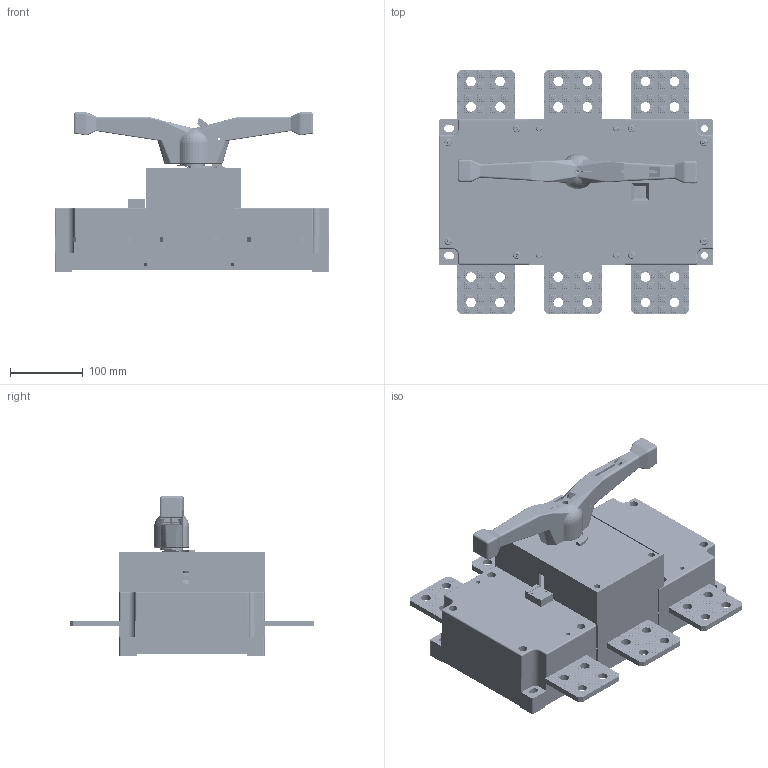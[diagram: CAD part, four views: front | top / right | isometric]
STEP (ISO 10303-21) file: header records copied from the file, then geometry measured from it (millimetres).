
FILE_DESCRIPTION (( 'STEP AP203' ), '1' );
FILE_NAME ('DNH8(HGL)-12503蚾饜尨砩芞.STEP', '2021-01-21T06:07:18', ( '' ), ( '' ), 'SwSTEP 2.0', 'SolidWorks 2019', '' );
FILE_SCHEMA (( 'CONFIG_CONTROL_DESIGN' ));
Length unit declared in the file: millimetre
Products named in the file (33): DNH8(HGL)-1250埴芛嶺裝; 踡嘐蹟譫M6℅6; DNH8(HGL)-1250尖头拉杆（装配用）; DNH8(HGL)-1250源粣; DNH8(HGL)-1250縐銅; DNH8(HGL)-1250粣杶; 圆头螺丝M5×0.8×55(30); DNH8(HGL)-1250揤啣; ﾔｲﾍｷﾂﾝﾋｿM6｡ﾁ1｡ﾁ45; DNH8(HGL)-1250粟銅え; DNH8(HGL)-1250隅弇种; DNH8(HGL)-1250埴芛嶺裝郪璃; DNH8(HGL)-1250揤銅; DNH8(HGL)-1250菁釱; DNH8(HGL)-1250忒梟; DNH8(HGL)-1250雄揖芛; DNH8(HGL)-1250芢輸; DNH8(HGL)-1250噙揖芛﹜; DNH8(HGL)-12503蚾饜尨砩芞; DNH8(HGL)-1250蛌砃啣; DNH8(HGL)-12503賑啣; M6℅20ㄗ湍す菜粟菜ㄘ; DNH8(HGL)-12503賑啣郪璃; DNH8(HGL)-1250賑啣粣; DNH8(HGL)-1250苤裔; DNH8(HGL)-1250忒梟坶え; DNH8(HGL)-1250芢輸蚾饜; 踡嘐蹟譫M5℅5; DNH8(HGL)-1250埴倛菜え; DNH8(HGL)-1250紱釬粣; 圆头螺丝M5×0.8×45(24); DNH8(HGL)-1250奻裔; DNH8(HGL)-1250綻伎硌尨齪
Assembly tree (79 placements, depth 3):
  DNH8(HGL)-12503蚾饜尨砩芞
    DNH8(HGL)-1250菁釱
    DNH8(HGL)-1250奻裔
    DNH8(HGL)-1250噙揖芛﹜  x6
    M6℅20ㄗ湍す菜粟菜ㄘ  x12
    DNH8(HGL)-1250苤裔
    DNH8(HGL)-1250芢輸蚾饜
      DNH8(HGL)-1250芢輸
      DNH8(HGL)-1250粟銅え  x6
      DNH8(HGL)-1250雄揖芛  x6
    DNH8(HGL)-1250紱釬粣
    DNH8(HGL)-1250隅弇种
    DNH8(HGL)-1250綻伎硌尨齪
    DNH8(HGL)-1250賑啣粣
    DNH8(HGL)-1250尖头拉杆（装配用）
    DNH8(HGL)-1250蛌砃啣
    DNH8(HGL)-1250忒梟
    DNH8(HGL)-1250忒梟坶え
    DNH8(HGL)-1250揤啣  x2
    DNH8(HGL)-1250揤銅
    DNH8(HGL)-1250埴芛嶺裝
    DNH8(HGL)-1250埴芛嶺裝郪璃
    DNH8(HGL)-1250埴倛菜え  x2
    DNH8(HGL)-1250粣杶
    DNH8(HGL)-12503賑啣郪璃
      DNH8(HGL)-1250源粣
      DNH8(HGL)-12503賑啣
    DNH8(HGL)-1250縐銅
    踡嘐蹟譫M6℅6  x8
    ﾔｲﾍｷﾂﾝﾋｿM6｡ﾁ1｡ﾁ45  x8
    踡嘐蹟譫M5℅5  x4
    圆头螺丝M5×0.8×45(24)  x2
    圆头螺丝M5×0.8×55(30)  x2
Bounding box: 378 x 336.2 x 219.74 mm (x, y, z)
Volume: 3691289.3 mm3; surface area: 1242745 mm2
Topology: 89 solids, 89 shells, 39787 faces, 98404 edges, 65159 vertices
Faces by surface type: plane 36588, cylinder 2762, bspline 178, cone 141, torus 108, sphere 10
Entity records: 287488 total; most frequent: CARTESIAN_POINT 76035, ORIENTED_EDGE 43448, DIRECTION 39532, EDGE_CURVE 21724, VECTOR 19138, LINE 19138, VERTEX_POINT 14305, AXIS2_PLACEMENT_3D 10197
